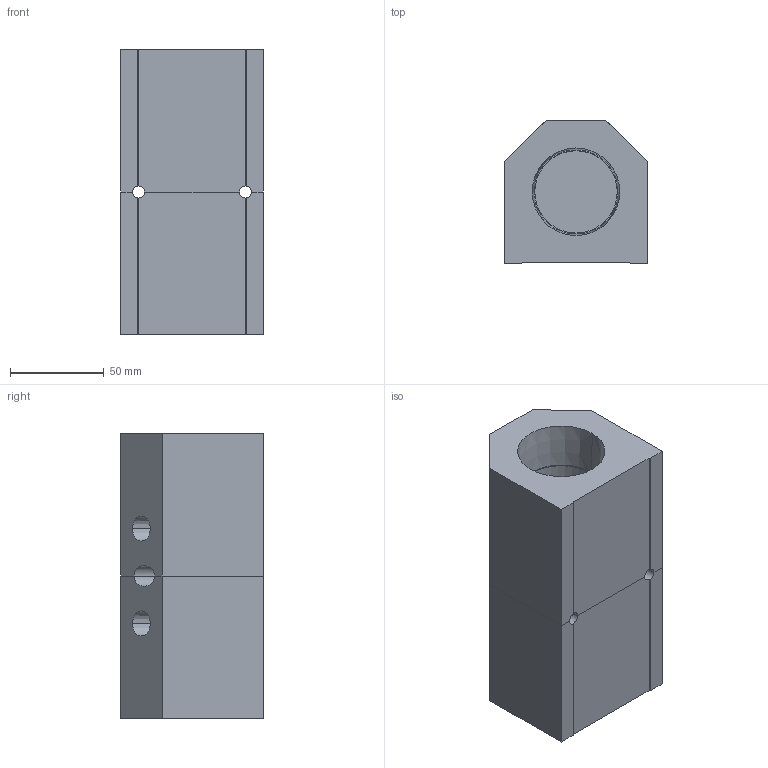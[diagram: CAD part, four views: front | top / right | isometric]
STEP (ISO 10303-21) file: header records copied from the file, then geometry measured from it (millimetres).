
FILE_DESCRIPTION (( 'STEP AP214' ), '1' );
FILE_NAME ('ALM2BD-N4N24-152RB.step', '2022-02-07T07:51:58', ( '' ), ( '' ), 'SwSTEP 2.0', 'SolidWorks 2020', '' );
FILE_SCHEMA (( 'AUTOMOTIVE_DESIGN' ));
Length unit declared in the file: millimetre
Products named in the file (1): ALM2BD-N4N24-152RB
Bounding box: 76.2 x 76.2 x 152 mm (x, y, z)
Volume: 554760.5 mm3; surface area: 86938.5 mm2
Topology: 2 solids, 2 shells, 338 faces, 889 edges, 592 vertices
Faces by surface type: plane 250, bspline 60, cylinder 16, cone 12
Entity records: 17663 total; most frequent: CARTESIAN_POINT 6602, ORIENTED_EDGE 1778, DIRECTION 1353, EDGE_CURVE 889, VECTOR 707, LINE 707, VERTEX_POINT 592, EDGE_LOOP 383
